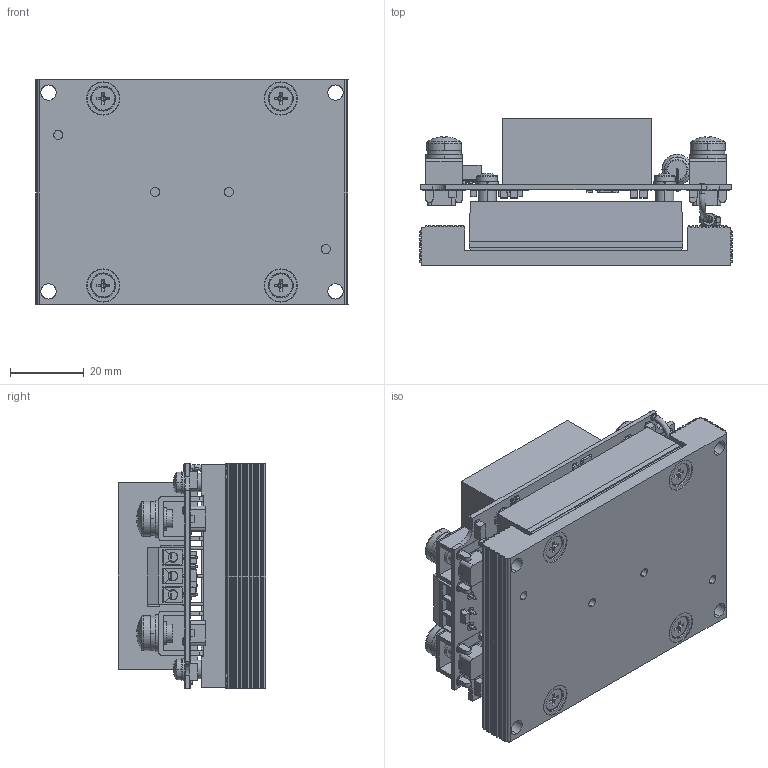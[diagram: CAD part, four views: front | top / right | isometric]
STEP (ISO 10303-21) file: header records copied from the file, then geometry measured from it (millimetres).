
FILE_DESCRIPTION (( 'STEP AP214' ), '1' );
FILE_NAME ('TEP 200 72 CMF.STEP', '2022-05-11T05:27:09', ( '' ), ( '' ), 'SwSTEP 2.0', 'SolidWorks 2016', '' );
FILE_SCHEMA (( 'AUTOMOTIVE_DESIGN' ));
Length unit declared in the file: millimetre
Products named in the file (1): TEP 200 72 CMF
Bounding box: 85 x 40.09 x 61 mm (x, y, z)
Volume: 127199.8 mm3; surface area: 65579.8 mm2
Topology: 58 solids, 58 shells, 3126 faces, 7947 edges, 5104 vertices
Faces by surface type: plane 1709, cylinder 1069, bspline 187, cone 161
Entity records: 120439 total; most frequent: CARTESIAN_POINT 23735, ORIENTED_EDGE 15780, DIRECTION 15536, EDGE_CURVE 7890, AXIS2_PLACEMENT_3D 5365, VERTEX_POINT 5104, VECTOR 4806, LINE 4806
